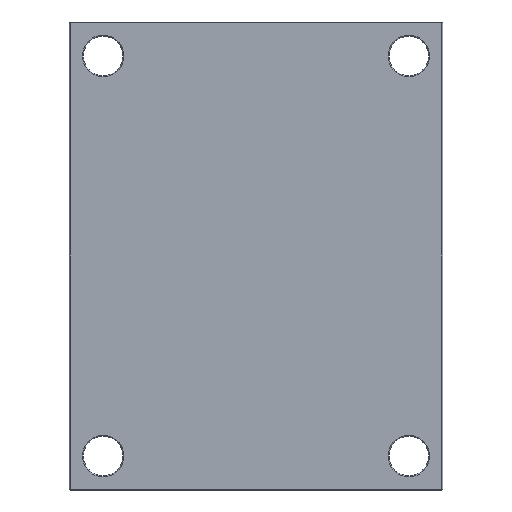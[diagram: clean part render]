
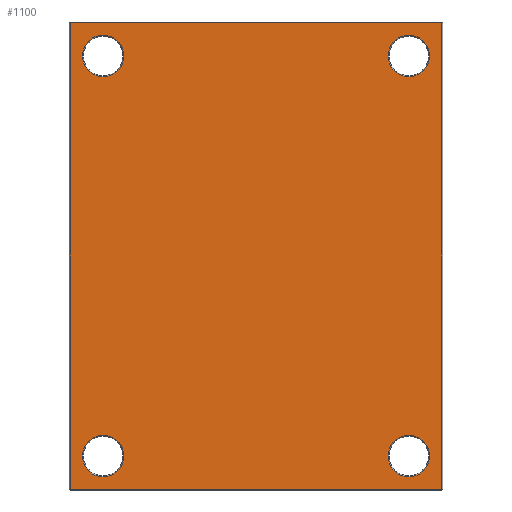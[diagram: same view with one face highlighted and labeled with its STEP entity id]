
A CAD part, front view. The second image highlights one B-rep face of the part: STEP entity #1100.
In plain terms, the highlighted planar face has unit normal (0, -1, 0).
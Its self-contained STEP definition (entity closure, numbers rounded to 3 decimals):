
#1 = VERTEX_POINT ( 'NONE', #61 ) ;
#3 = CARTESIAN_POINT ( 'NONE',  ( 162., 0., -212. ) ) ;
#12 = VECTOR ( 'NONE', #371, 1000. ) ;
#16 = LINE ( 'NONE', #552, #12 ) ;
#43 = VERTEX_POINT ( 'NONE', #1619 ) ;
#48 = DIRECTION ( 'NONE',  ( 0., 0., 1. ) ) ;
#61 = CARTESIAN_POINT ( 'NONE',  ( -162., 0., -190. ) ) ;
#84 = CARTESIAN_POINT ( 'NONE',  ( 162., 0., 234. ) ) ;
#114 = VERTEX_POINT ( 'NONE', #1112 ) ;
#122 = DIRECTION ( 'NONE',  ( 0., 1., 0. ) ) ;
#154 = CIRCLE ( 'NONE', #1430, 22. ) ;
#172 = EDGE_CURVE ( 'NONE', #571, #1638, #998, .T. ) ;
#200 = LINE ( 'NONE', #1729, #357 ) ;
#202 = DIRECTION ( 'NONE',  ( 0., 1., 0. ) ) ;
#236 = CARTESIAN_POINT ( 'NONE',  ( -162., 0., 234. ) ) ;
#238 = CARTESIAN_POINT ( 'NONE',  ( 162., 0., 212. ) ) ;
#257 = CIRCLE ( 'NONE', #1749, 22. ) ;
#309 = VERTEX_POINT ( 'NONE', #2094 ) ;
#335 = VECTOR ( 'NONE', #959, 1000. ) ;
#357 = VECTOR ( 'NONE', #1746, 1000. ) ;
#361 = EDGE_CURVE ( 'NONE', #988, #2142, #897, .T. ) ;
#371 = DIRECTION ( 'NONE',  ( 1., 0., 0. ) ) ;
#420 = LINE ( 'NONE', #1211, #335 ) ;
#431 = CARTESIAN_POINT ( 'NONE',  ( -162., 0., -234. ) ) ;
#453 = AXIS2_PLACEMENT_3D ( 'NONE', #1525, #2104, #1715 ) ;
#498 = DIRECTION ( 'NONE',  ( 0., 0., 1. ) ) ;
#521 = CIRCLE ( 'NONE', #1411, 22. ) ;
#537 = CARTESIAN_POINT ( 'NONE',  ( -162., 0., 212. ) ) ;
#552 = CARTESIAN_POINT ( 'NONE',  ( 0., 0., -247. ) ) ;
#571 = VERTEX_POINT ( 'NONE', #1425 ) ;
#600 = LINE ( 'NONE', #1561, #1095 ) ;
#633 = DIRECTION ( 'NONE',  ( 0., 1., 0. ) ) ;
#644 = EDGE_CURVE ( 'NONE', #1247, #1, #1358, .T. ) ;
#661 = FACE_BOUND ( 'NONE', #1325, .T. ) ;
#664 = FACE_BOUND ( 'NONE', #2056, .T. ) ;
#679 = CARTESIAN_POINT ( 'NONE',  ( -162., 0., -212. ) ) ;
#682 = FACE_OUTER_BOUND ( 'NONE', #1272, .T. ) ;
#684 = FACE_BOUND ( 'NONE', #1483, .T. ) ;
#687 = FACE_BOUND ( 'NONE', #2026, .T. ) ;
#701 = CARTESIAN_POINT ( 'NONE',  ( 197., 0., 247. ) ) ;
#738 = AXIS2_PLACEMENT_3D ( 'NONE', #837, #874, #932 ) ;
#749 = CARTESIAN_POINT ( 'NONE',  ( 162., 0., 190. ) ) ;
#830 = AXIS2_PLACEMENT_3D ( 'NONE', #537, #633, #498 ) ;
#837 = CARTESIAN_POINT ( 'NONE',  ( 162., 0., 212. ) ) ;
#848 = VERTEX_POINT ( 'NONE', #1991 ) ;
#863 = ORIENTED_EDGE ( 'NONE', *, *, #172, .T. ) ;
#874 = DIRECTION ( 'NONE',  ( 0., 1., 0. ) ) ;
#897 = CIRCLE ( 'NONE', #738, 22. ) ;
#932 = DIRECTION ( 'NONE',  ( 0., 0., 1. ) ) ;
#959 = DIRECTION ( 'NONE',  ( 0., 0., -1. ) ) ;
#988 = VERTEX_POINT ( 'NONE', #749 ) ;
#998 = CIRCLE ( 'NONE', #830, 22. ) ;
#1002 = ORIENTED_EDGE ( 'NONE', *, *, #1369, .T. ) ;
#1014 = DIRECTION ( 'NONE',  ( 0., 0., 1. ) ) ;
#1095 = VECTOR ( 'NONE', #1576, 1000. ) ;
#1100 = ADVANCED_FACE ( 'NONE', ( #684, #661, #664, #687, #682 ), #1675, .F. ) ;
#1112 = CARTESIAN_POINT ( 'NONE',  ( 162., 0., -234. ) ) ;
#1119 = ORIENTED_EDGE ( 'NONE', *, *, #644, .T. ) ;
#1139 = AXIS2_PLACEMENT_3D ( 'NONE', #1481, #2129, #1490 ) ;
#1156 = VERTEX_POINT ( 'NONE', #1195 ) ;
#1169 = ORIENTED_EDGE ( 'NONE', *, *, #1334, .T. ) ;
#1188 = EDGE_CURVE ( 'NONE', #1, #1247, #1397, .T. ) ;
#1195 = CARTESIAN_POINT ( 'NONE',  ( -197., 0., -247. ) ) ;
#1211 = CARTESIAN_POINT ( 'NONE',  ( -197., 0., 0. ) ) ;
#1247 = VERTEX_POINT ( 'NONE', #431 ) ;
#1251 = EDGE_CURVE ( 'NONE', #309, #114, #257, .T. ) ;
#1272 = EDGE_LOOP ( 'NONE', ( #1532, #1735, #1450, #1447 ) ) ;
#1325 = EDGE_LOOP ( 'NONE', ( #1870, #1816 ) ) ;
#1333 = VERTEX_POINT ( 'NONE', #701 ) ;
#1334 = EDGE_CURVE ( 'NONE', #2142, #988, #521, .T. ) ;
#1350 = CIRCLE ( 'NONE', #1139, 22. ) ;
#1358 = CIRCLE ( 'NONE', #453, 22. ) ;
#1369 = EDGE_CURVE ( 'NONE', #1638, #571, #154, .T. ) ;
#1397 = CIRCLE ( 'NONE', #1935, 22. ) ;
#1411 = AXIS2_PLACEMENT_3D ( 'NONE', #238, #202, #48 ) ;
#1423 = EDGE_CURVE ( 'NONE', #43, #1333, #200, .T. ) ;
#1425 = CARTESIAN_POINT ( 'NONE',  ( -162., 0., 190. ) ) ;
#1430 = AXIS2_PLACEMENT_3D ( 'NONE', #2054, #2042, #2035 ) ;
#1447 = ORIENTED_EDGE ( 'NONE', *, *, #1563, .T. ) ;
#1450 = ORIENTED_EDGE ( 'NONE', *, *, #1519, .T. ) ;
#1453 = EDGE_CURVE ( 'NONE', #1333, #848, #600, .T. ) ;
#1481 = CARTESIAN_POINT ( 'NONE',  ( 162., 0., -212. ) ) ;
#1483 = EDGE_LOOP ( 'NONE', ( #1119, #1520 ) ) ;
#1490 = DIRECTION ( 'NONE',  ( 0., 0., 1. ) ) ;
#1519 = EDGE_CURVE ( 'NONE', #848, #1156, #420, .T. ) ;
#1520 = ORIENTED_EDGE ( 'NONE', *, *, #1188, .T. ) ;
#1525 = CARTESIAN_POINT ( 'NONE',  ( -162., 0., -212. ) ) ;
#1532 = ORIENTED_EDGE ( 'NONE', *, *, #1423, .T. ) ;
#1561 = CARTESIAN_POINT ( 'NONE',  ( 0., 0., 247. ) ) ;
#1563 = EDGE_CURVE ( 'NONE', #1156, #43, #16, .T. ) ;
#1576 = DIRECTION ( 'NONE',  ( -1., 0., 0. ) ) ;
#1582 = DIRECTION ( 'NONE',  ( 0., 1., 0. ) ) ;
#1619 = CARTESIAN_POINT ( 'NONE',  ( 197., 0., -247. ) ) ;
#1637 = CARTESIAN_POINT ( 'NONE',  ( 0., 0., 0. ) ) ;
#1638 = VERTEX_POINT ( 'NONE', #236 ) ;
#1675 = PLANE ( 'NONE',  #2009 ) ;
#1715 = DIRECTION ( 'NONE',  ( 0., 0., 1. ) ) ;
#1729 = CARTESIAN_POINT ( 'NONE',  ( 197., 0., 0. ) ) ;
#1735 = ORIENTED_EDGE ( 'NONE', *, *, #1453, .T. ) ;
#1746 = DIRECTION ( 'NONE',  ( 0., 0., 1. ) ) ;
#1749 = AXIS2_PLACEMENT_3D ( 'NONE', #3, #2067, #2081 ) ;
#1793 = ORIENTED_EDGE ( 'NONE', *, *, #361, .T. ) ;
#1816 = ORIENTED_EDGE ( 'NONE', *, *, #1251, .T. ) ;
#1870 = ORIENTED_EDGE ( 'NONE', *, *, #2084, .T. ) ;
#1908 = DIRECTION ( 'NONE',  ( 0., 0., 1. ) ) ;
#1935 = AXIS2_PLACEMENT_3D ( 'NONE', #679, #122, #1014 ) ;
#1991 = CARTESIAN_POINT ( 'NONE',  ( -197., 0., 247. ) ) ;
#2009 = AXIS2_PLACEMENT_3D ( 'NONE', #1637, #1582, #1908 ) ;
#2026 = EDGE_LOOP ( 'NONE', ( #863, #1002 ) ) ;
#2035 = DIRECTION ( 'NONE',  ( 0., 0., 1. ) ) ;
#2042 = DIRECTION ( 'NONE',  ( 0., 1., 0. ) ) ;
#2054 = CARTESIAN_POINT ( 'NONE',  ( -162., 0., 212. ) ) ;
#2056 = EDGE_LOOP ( 'NONE', ( #1793, #1169 ) ) ;
#2067 = DIRECTION ( 'NONE',  ( 0., 1., 0. ) ) ;
#2081 = DIRECTION ( 'NONE',  ( 0., 0., 1. ) ) ;
#2084 = EDGE_CURVE ( 'NONE', #114, #309, #1350, .T. ) ;
#2094 = CARTESIAN_POINT ( 'NONE',  ( 162., 0., -190. ) ) ;
#2104 = DIRECTION ( 'NONE',  ( 0., 1., 0. ) ) ;
#2129 = DIRECTION ( 'NONE',  ( 0., 1., 0. ) ) ;
#2142 = VERTEX_POINT ( 'NONE', #84 ) ;
